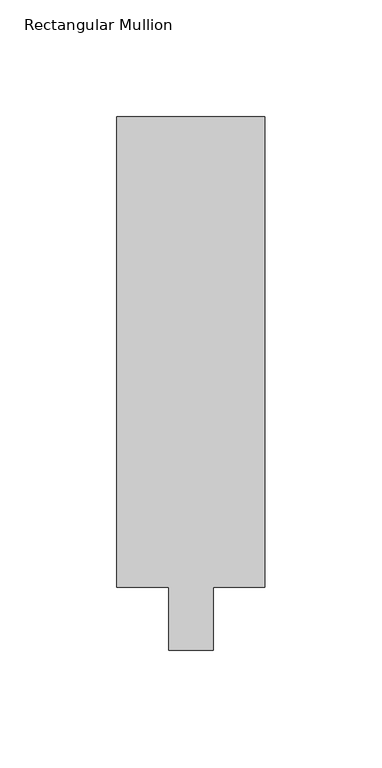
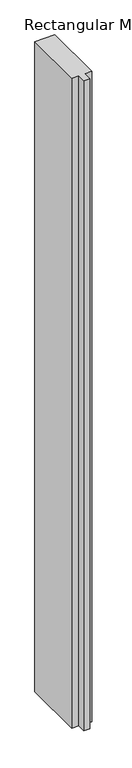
"""IFC4 building model written with IfcOpenShell, lengths in millimetres: member geometry."""

import ifcopenshell
import ifcopenshell.guid

model = None  # the IFC model being written
_history = None  # IfcOwnerHistory: only IFC2X3 demands one
_inside = {}  # id of a spatial element -> (the spatial element, [elements in it])
_under = {}  # id of a project, library or spatial element -> (it, [spatial elements below it])
_declared = {}  # id of a project -> (the project, [libraries it declares])
_typed = {}  # id of a type object -> (the type object, [elements of that type])
_made_of = {}  # id of a material, layer set ... -> (it, [elements and type objects made of it])


def new_model(schema):
    """Start an empty IFC model of exactly this schema.

    Asked for "IFC4X3", IfcOpenShell would pick the latest addendum, in which some entities
    have other attributes; the version numbers below select the first issue.
    IFC2X3 requires an IfcOwnerHistory on every rooted entity: one is made here for all.
    """
    global model, _history
    if schema == "IFC4X3":
        model = ifcopenshell.file(schema_version=(4, 3, 0, 0))
    else:
        model = ifcopenshell.file(schema=schema)
    _inside.clear()
    _under.clear()
    _declared.clear()
    _typed.clear()
    _made_of.clear()
    _history = None
    if model.schema == "IFC2X3":
        org = make("IfcOrganization", Name="unknown")
        user = make(
            "IfcPersonAndOrganization",
            ThePerson=make("IfcPerson", FamilyName="unknown"),
            TheOrganization=org,
        )
        app = make(
            "IfcApplication",
            ApplicationDeveloper=org,
            Version="unknown",
            ApplicationFullName="unknown",
            ApplicationIdentifier="unknown",
        )
        _history = make(
            "IfcOwnerHistory",
            OwningUser=user,
            OwningApplication=app,
            ChangeAction="ADDED",
            CreationDate=0,
        )
    return model


def make(cls, **values):
    """One entity of the class cls with the attributes given. An attribute that is None is left unset."""
    return model.create_entity(
        cls, **{name: value for name, value in values.items() if value is not None}
    )


def rooted(cls, **values):
    """An entity with a GlobalId (a new one), such as an element, a storey or a relation."""
    return make(cls, GlobalId=ifcopenshell.guid.new(), OwnerHistory=_history, **values)


def si_unit(unit_type, name, prefix=None):
    """IfcSIUnit, for example si_unit("LENGTHUNIT", "METRE", prefix="MILLI")."""
    return make("IfcSIUnit", UnitType=unit_type, Prefix=prefix, Name=name)


def assignment(units):
    """IfcUnitAssignment: the units of a project."""
    return None if units is None else make("IfcUnitAssignment", Units=units)


def point(xyz):
    """IfcCartesianPoint."""
    return None if xyz is None else make("IfcCartesianPoint", Coordinates=xyz)


def direction(xyz):
    """IfcDirection."""
    return None if xyz is None else make("IfcDirection", DirectionRatios=xyz)


def frame(location, z_axis=None, x_axis=None):
    """IfcAxis2Placement3D, a coordinate frame: its origin and axes. An axis left out is left unset."""
    return make(
        "IfcAxis2Placement3D",
        Location=point(location),
        Axis=direction(z_axis),
        RefDirection=direction(x_axis),
    )


def origin():
    """The frame at (0, 0, 0) with its axes left unset."""
    return frame((0.0, 0.0, 0.0))


def place(relative_to, where):
    """IfcLocalPlacement: puts the frame where relative to a parent placement (None: the world)."""
    return make(
        "IfcLocalPlacement", PlacementRelTo=relative_to, RelativePlacement=where
    )


def context(
    kind, dimensions, precision=None, world=None, true_north=None, identifier=None
):
    """IfcGeometricRepresentationContext, for example the 3D "Model" context."""
    return make(
        "IfcGeometricRepresentationContext",
        ContextIdentifier=identifier,
        ContextType=kind,
        CoordinateSpaceDimension=dimensions,
        Precision=precision,
        WorldCoordinateSystem=world,
        TrueNorth=true_north,
    )


def project(units=None, contexts=None):
    """IfcProject with its units and contexts."""
    return rooted(
        "IfcProject",
        Name="project",
        RepresentationContexts=contexts,
        UnitsInContext=assignment(units),
    )


def spatial(cls, under=None, at=None, **own):
    """A site, building, storey or space (cls), placed at a placement, below another one or the project."""
    s = rooted(cls, ObjectPlacement=at, **own)
    if under is not None:
        _under.setdefault(under.id(), (under, []))[1].append(s)
    return s


def polyline(points):
    """IfcPolyline through the points."""
    return make("IfcPolyline", Points=[point(p) for p in points])


def outline(outer, holes=None, kind="AREA"):
    """IfcArbitraryClosedProfileDef: a profile drawn as a closed curve; with holes, ...WithVoids."""
    if holes is None:
        return make("IfcArbitraryClosedProfileDef", ProfileType=kind, OuterCurve=outer)
    return make(
        "IfcArbitraryProfileDefWithVoids",
        ProfileType=kind,
        OuterCurve=outer,
        InnerCurves=holes,
    )


def extrude(swept, where, along, depth):
    """IfcExtrudedAreaSolid: the profile swept, set in the frame where, extruded along a direction by depth."""
    return make(
        "IfcExtrudedAreaSolid",
        SweptArea=swept,
        Position=where,
        ExtrudedDirection=direction(along),
        Depth=depth,
    )


def shape(context_of_items, identifier, shape_type, items):
    """IfcShapeRepresentation: the items that make up one representation, for example the "Body"."""
    return make(
        "IfcShapeRepresentation",
        ContextOfItems=context_of_items,
        RepresentationIdentifier=identifier,
        RepresentationType=shape_type,
        Items=items,
    )


def source(mapping_origin, context_of_items, identifier, shape_type, items):
    """IfcRepresentationMap: a shape defined once, which mapped items show again and again."""
    return make(
        "IfcRepresentationMap",
        MappingOrigin=mapping_origin,
        MappedRepresentation=shape(context_of_items, identifier, shape_type, items),
    )


def transform(
    local_origin,
    x_axis=None,
    y_axis=None,
    z_axis=None,
    scale=None,
    scale2=None,
    scale3=None,
    uniform=True,
):
    """IfcCartesianTransformationOperator3D, or its non-uniform kind. x_axis, y_axis, z_axis: its Axis1, 2, 3."""
    if uniform:
        return make(
            "IfcCartesianTransformationOperator3D",
            Axis1=direction(x_axis),
            Axis2=direction(y_axis),
            LocalOrigin=point(local_origin),
            Scale=scale,
            Axis3=direction(z_axis),
        )
    return make(
        "IfcCartesianTransformationOperator3DnonUniform",
        Axis1=direction(x_axis),
        Axis2=direction(y_axis),
        LocalOrigin=point(local_origin),
        Scale=scale,
        Axis3=direction(z_axis),
        Scale2=scale2,
        Scale3=scale3,
    )


def mapped(mapping_source, mapping_target):
    """IfcMappedItem: shows the shape of a source again, moved by a transform."""
    return make(
        "IfcMappedItem", MappingSource=mapping_source, MappingTarget=mapping_target
    )


def made_of(thing, what):
    """Note that an element or type object is made of a material, layer set ...; save() writes the relation."""
    if what is not None:
        _made_of.setdefault(what.id(), (what, []))[1].append(thing)
    return thing


def element(
    cls,
    number,
    at=None,
    inside=None,
    cuts=None,
    type_object=None,
    material=None,
    context=None,
    identifier="Body",
    shape_type=None,
    held_by="IfcProductDefinitionShape",
    body=None,
    shapes=None,
    **own,
):
    """One element of the class cls, such as IfcWall. Its Tag is "e" and its number.

    at: its placement. inside: the storey or other place that contains it. cuts: it is an
    opening in that element (IfcRelVoidsElement). A single representation is given by context,
    identifier, shape_type and body (its items); several are given by shapes. held_by: the class
    of the entity that holds the representations. save() writes the other relations.
    """
    e = rooted(cls, Tag="e%d" % number, ObjectPlacement=at, **own)
    if body is not None:
        shapes = [shape(context, identifier, shape_type, body)]
    if shapes is not None:
        e.Representation = make(held_by, Representations=shapes)
    if inside is not None:
        _inside.setdefault(inside.id(), (inside, []))[1].append(e)
    if cuts is not None:
        rooted(
            "IfcRelVoidsElement", RelatingBuildingElement=cuts, RelatedOpeningElement=e
        )
    if type_object is not None:
        _typed.setdefault(type_object.id(), (type_object, []))[1].append(e)
    return made_of(e, material)


def aggregate(whole, parts):
    """IfcRelAggregates: a whole, such as a stair, and the parts it consists of."""
    return rooted("IfcRelAggregates", RelatingObject=whole, RelatedObjects=parts)


def save(model, path):
    """Write the relations noted so far, then the file.

    IfcRelAggregates (storeys below a building ...), IfcRelContainedInSpatialStructure (elements
    in a storey), IfcRelDefinesByType, IfcRelAssociatesMaterial and IfcRelDeclares: one each for
    every whole, place, type object, material and project.
    """
    for whole, parts in _under.values():
        aggregate(whole, parts)
    for where, things in _inside.values():
        rooted(
            "IfcRelContainedInSpatialStructure",
            RelatedElements=things,
            RelatingStructure=where,
        )
    for kind, things in _typed.values():
        rooted("IfcRelDefinesByType", RelatedObjects=things, RelatingType=kind)
    for what, things in _made_of.values():
        rooted("IfcRelAssociatesMaterial", RelatedObjects=things, RelatingMaterial=what)
    for by, libraries in _declared.values():
        rooted("IfcRelDeclares", RelatingContext=by, RelatedDefinitions=libraries)
    model.write(path)


def rectangular_mullion_d7dfc533(model_context):
    return source(origin(), model_context, "Body", "SweptSolid", [
        extrude(outline(polyline([(-63.5, 228.6), (0.0, 228.6), (0.0, 26.9875), (-22.225, 26.9875), (-22.225, 0.0), (-41.275, 0.0), (-41.275, 26.9875), (-63.5, 26.9875), (-63.5, 228.6)])), frame((0.0, 0.0, -2177.1415972), z_axis=(0.0, 0.0, 1.0), x_axis=(1.0, 0.0, 0.0)), (0.0, 0.0, 1.0), 2177.1415972),
    ])


if __name__ == "__main__":
    model = new_model("IFC4")
    model_context = context("Model", 3, world=origin())
    ifc_project = project(units=[si_unit("LENGTHUNIT", "METRE", prefix="MILLI")], contexts=[model_context])
    site = spatial("IfcSite", under=ifc_project)
    building = spatial("IfcBuilding", under=site)
    placement = place(None, origin())
    rectangular_mullion_shape = rectangular_mullion_d7dfc533(model_context)
    element("IfcMember", 1, ObjectType="Rectangular Mullion : 2 1/2\" x 8\" - Capless", at=placement, inside=building, context=model_context, shape_type="MappedRepresentation", body=[
        mapped(rectangular_mullion_shape, transform((0.0, 0.0, 0.0), x_axis=(1.0, 0.0, 0.0), y_axis=(0.0, 1.0, 0.0), z_axis=(0.0, 0.0, 1.0))),
    ])
    save(model, "model.ifc")
